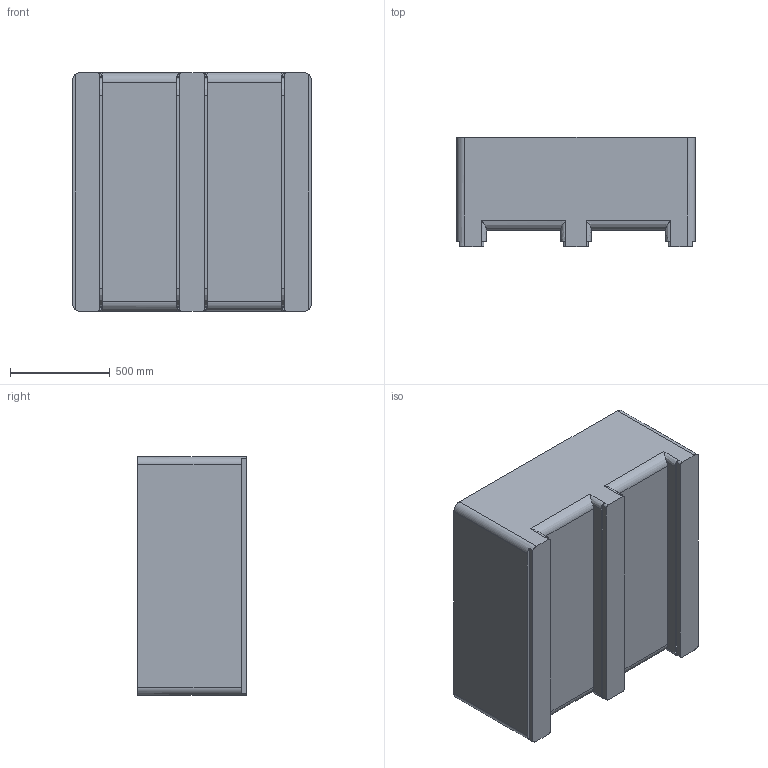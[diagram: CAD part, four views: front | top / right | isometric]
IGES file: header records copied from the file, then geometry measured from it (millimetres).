
Start section: SolidWorks IGES file using analytic representation for surfaces
Global section: file name: C:\Users\bconder\Documents\Production Models\MacroBins\16FV\16FV Block Model.IGS; native system: SolidWorks 2013; preprocessor: SolidWorks 2013; author: bconder; date: 130603.104024; units: inch
Bounding box: 1196.97 x 546.1 x 1196.97 mm (x, y, z)
Surface area: 7264462 mm2 (no closed solid volume)
Topology: 0 solids, 0 shells, 79 faces, 1164 edges, 1164 vertices
Faces by surface type: bspline 43, revolution 36
